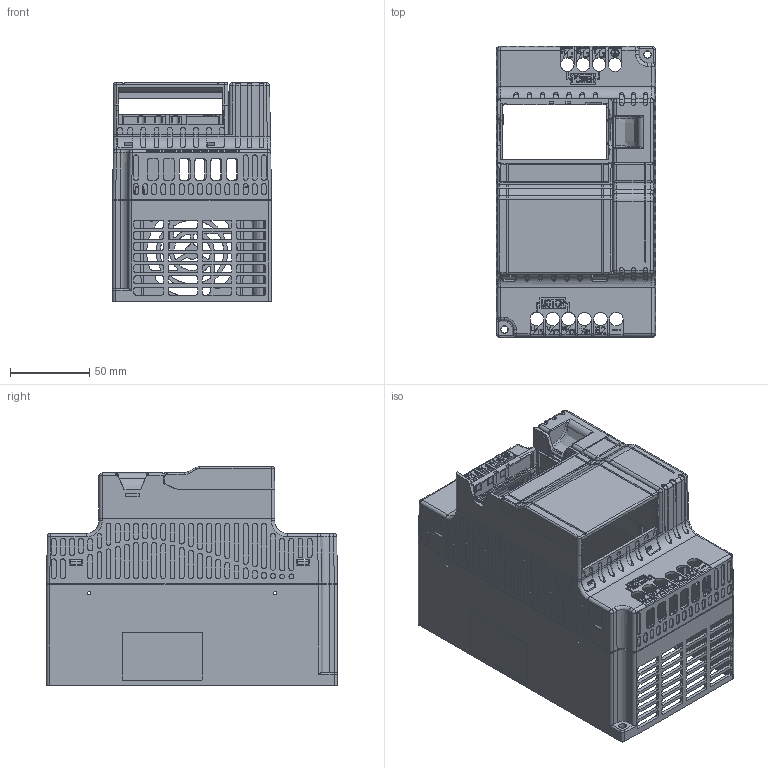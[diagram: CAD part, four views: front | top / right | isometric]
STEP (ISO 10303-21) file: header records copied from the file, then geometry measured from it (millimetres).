
FILE_DESCRIPTION((''),'2;1');
FILE_NAME('Z2000-3_7_5_5KW_S12__ASM','2019-02-25T',('PC-TR'),(''),'PRO/ENGINEER BY PARAMETRIC TECHNOLOGY CORPORATION, 2010280','PRO/ENGINEER BY PARAMETRIC TECHNOLOGY CORPORATION, 2010280','');
FILE_SCHEMA(('CONFIG_CONTROL_DESIGN'));
Products named in the file (1): Z2000-3_7_5_5KW_S12__ASM
Bounding box: 100.03 x 183.03 x 137.6 mm (x, y, z)
Volume: 82438.6 mm3; surface area: 212775.1 mm2
Topology: 2 solids, 8 shells, 3838 faces, 11007 edges, 7385 vertices
Faces by surface type: plane 2722, cylinder 962, bspline 53, cone 52, sphere 25, torus 20, extrusion 4
Entity records: 132540 total; most frequent: CARTESIAN_POINT 34149, ORIENTED_EDGE 21810, DIRECTION 17894, EDGE_CURVE 10989, VECTOR 8334, LINE 8330, VERTEX_POINT 7385, AXIS2_PLACEMENT_3D 4780
